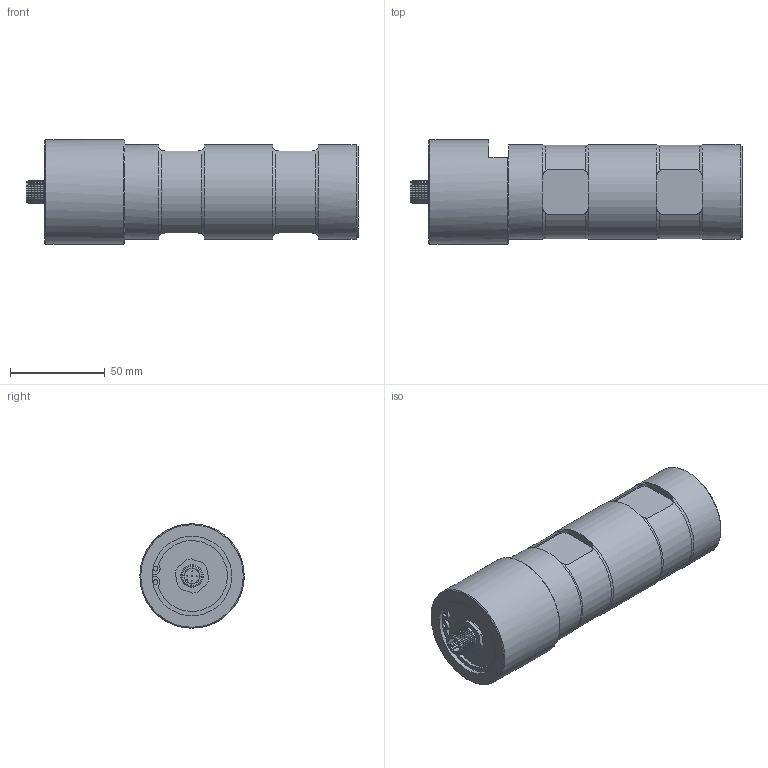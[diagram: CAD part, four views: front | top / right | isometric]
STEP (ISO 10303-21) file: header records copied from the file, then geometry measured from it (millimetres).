
FILE_DESCRIPTION(/* description */ ('Alibre Inc.'),/* implementation_level */ '2;1');
FILE_NAME(/* name */ 'export-83160F32-8596-4A33-A9E8-3E615C149123',/* time_stamp */ '2020-05-29T10:53:41+02:00',/* author */ (''),/* organization */ (''),/* preprocessor_version */ 'ST-DEVELOPER v17',/* originating_system */ 'Alibre',/* authorisation */ '');
FILE_SCHEMA (('CONFIG_CONTROL_DESIGN'));
Length unit declared in the file: centimetre
Products named in the file (5): DIN 472 - d1 42 - s 1,75
Bounding box: 175 x 55 x 55 mm (x, y, z)
Volume: 454303.5 mm3; surface area: 190686.7 mm2
Topology: 9 solids, 10 shells, 246 faces, 543 edges, 324 vertices
Faces by surface type: cylinder 94, cone 72, plane 70, torus 10
Full cylindrical faces by diameter (mm): 0.5 x10, 8 x2, 10 x1, 11 x1, 11.5 x1, 12 x21, 13 x2, 14.5 x1, 41.5 x1, 42 x2, 44.5 x1, 50 x3, 55 x1
Entity records: 6251 total; most frequent: CARTESIAN_POINT 1321, ORIENTED_EDGE 864, DIRECTION 815, EDGE_CURVE 426, AXIS2_PLACEMENT_3D 381, EDGE_LOOP 370, FACE_BOUND 370, VERTEX_POINT 306
